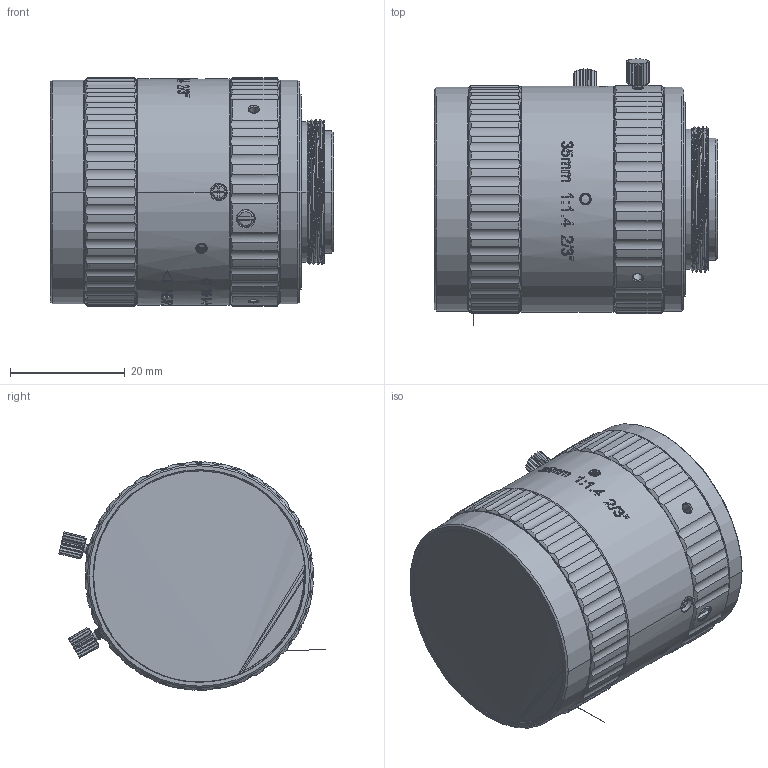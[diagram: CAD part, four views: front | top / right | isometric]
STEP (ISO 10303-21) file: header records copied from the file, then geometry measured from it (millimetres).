
FILE_DESCRIPTION((''),'2;1');
FILE_NAME('FA3502A-200_ASM_ASM','2018-04-23T',('Administrator'),(''),'PRO/ENGINEER BY PARAMETRIC TECHNOLOGY CORPORATION, 2010370','PRO/ENGINEER BY PARAMETRIC TECHNOLOGY CORPORATION, 2010370','');
FILE_SCHEMA(('CONFIG_CONTROL_DESIGN'));
Length unit declared in the file: millimetre
Products named in the file (18): MSBR-56; MSBR-55; MSBR-54; MSBR-53; MSBR-52; MSBR-50; MSBR-49; MSBR-48; MSBR-47; MSBR-46; MSBR-45; MSBR-44; MSBR-35; MSBR-34; MSBR-29; MSBR-28; MSBR-1; FA3502A-200_ASM_ASM
Assembly tree (17 placements, depth 2):
  FA3502A-200_ASM_ASM
    MSBR-56
    MSBR-55
    MSBR-54
    MSBR-53
    MSBR-52
    MSBR-50
    MSBR-49
    MSBR-48
    MSBR-47
    MSBR-46
    MSBR-45
    MSBR-44
    MSBR-35
    MSBR-34
    MSBR-29
    MSBR-28
    MSBR-1
Bounding box: 49.3 x 46.41 x 39.8 mm (x, y, z)
Volume: 25836 mm3; surface area: 29375.7 mm2
Topology: 17 solids, 17 shells, 1486 faces, 4142 edges, 2745 vertices
Faces by surface type: cylinder 455, bspline 428, plane 391, cone 176, torus 22, sphere 8, extrusion 6
Entity records: 79596 total; most frequent: CARTESIAN_POINT 44423, ORIENTED_EDGE 8268, DIRECTION 5712, EDGE_CURVE 4134, VERTEX_POINT 2745, AXIS2_PLACEMENT_3D 2059, EDGE_LOOP 1611, VECTOR 1594
